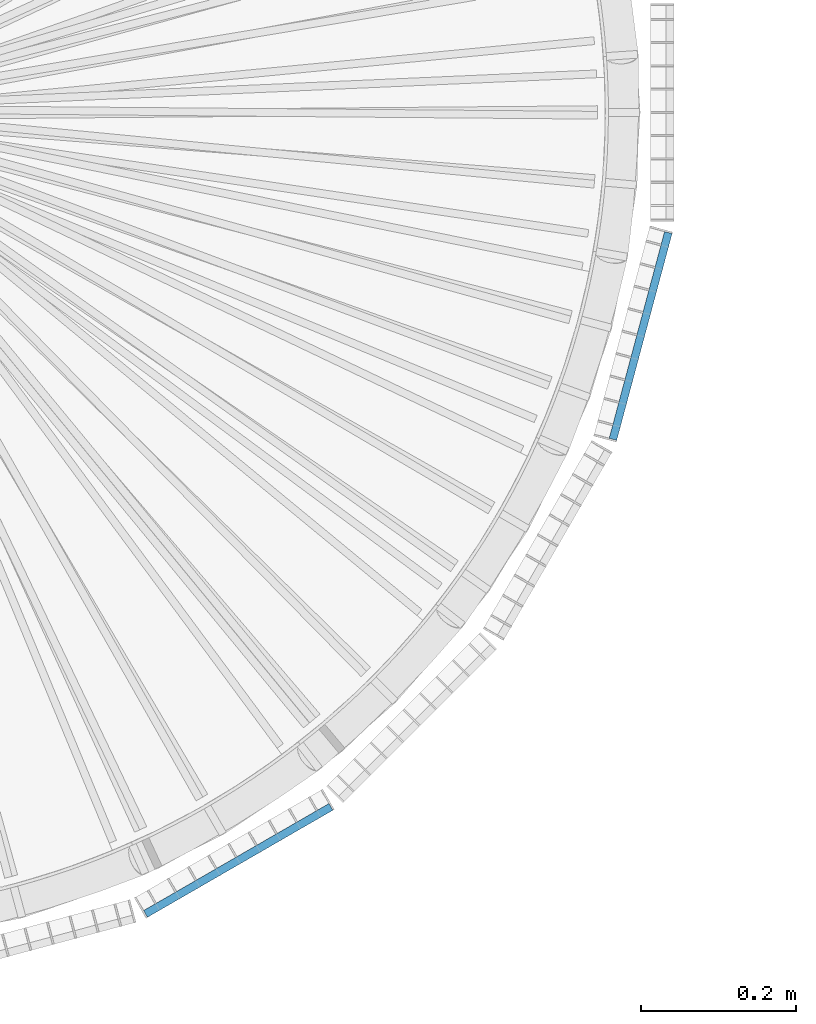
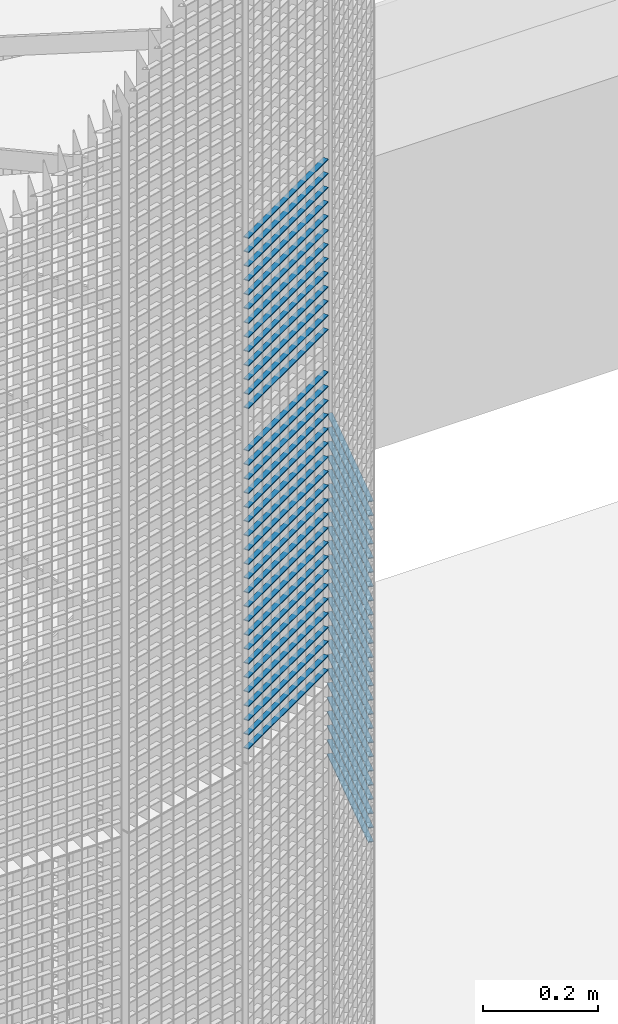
# One storey, part 226 of 1148: 60 beams, 2 elements without a shape of their own.
"""IFC2X3 building model written with IfcOpenShell, lengths in millimetres."""

from ifc_helpers import new_model, si_unit, frame, origin_with_axes, origin_2d_with_axis, place, context, subcontext, project, spatial, rectangle, extrude, material, type_object, element, aggregate, save


model = new_model("IFC2X3")

# Units and contexts
model_context = context("Model", 3, precision=1e-05, world=origin_with_axes())
body_context = subcontext(model_context, "Body", "Model", "MODEL_VIEW")
ifc_project = project(units=[si_unit("LENGTHUNIT", "METRE", prefix="MILLI"), si_unit("AREAUNIT", "SQUARE_METRE"), si_unit("VOLUMEUNIT", "CUBIC_METRE"), si_unit("MASSUNIT", "GRAM", prefix="KILO"), si_unit("TIMEUNIT", "SECOND"), si_unit("PLANEANGLEUNIT", "RADIAN"), si_unit("SOLIDANGLEUNIT", "STERADIAN"), si_unit("THERMODYNAMICTEMPERATUREUNIT", "DEGREE_CELSIUS"), si_unit("LUMINOUSINTENSITYUNIT", "LUMEN")], contexts=[model_context])

# Site, building, storey
site_placement = place(None, origin_with_axes())
site = spatial("IfcSite", under=ifc_project, at=site_placement, Name="Undefined", CompositionType="ELEMENT")
building_placement = place(site_placement, origin_with_axes())
building = spatial("IfcBuilding", under=site, at=building_placement, Name="Undefined", CompositionType="ELEMENT")
storey_placement = place(building_placement, origin_with_axes())
storey = spatial("IfcBuildingStorey", under=building, at=storey_placement, Name="Undefined", CompositionType="ELEMENT", Elevation=0.0)

# Assembly, beams
assembly_1_placement = place(storey_placement, origin_with_axes())
assembly_1 = element("IfcElementAssembly", 1, at=assembly_1_placement, inside=storey, Name="BORDURE", AssemblyPlace="NOTDEFINED", PredefinedType="NOTDEFINED")
ifc_material = material(Name="STEEL/S235JR")
beam_type = type_object("IfcBeamType", Name="PL2*10", PredefinedType="NOTDEFINED")
beam_1_placement = place(assembly_1_placement, frame((437.231955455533, -1033.29996828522, 15750.0), z_axis=(0.499999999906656, -0.866025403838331, 0.0), x_axis=(0.866025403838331, 0.499999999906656, 0.0)))
beam_1 = element("IfcBeam", 2, at=beam_1_placement, type_object=beam_type, material=ifc_material, Name="ENTRETOISE", context=body_context, shape_type="SweptSolid", body=[
    extrude(rectangle(XDim=2.0, YDim=10.0, at=origin_2d_with_axis()), frame((275.999999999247, 9.09494701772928e-13, 1.53210777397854e-14), z_axis=(-1.0, 0.0, 0.0), x_axis=(0.0, -1.0, 0.0)), (0.0, 0.0, 1.0), 276.0),
])
beam_2_placement = place(assembly_1_placement, frame((437.231955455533, -1033.29996828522, 15660.0), z_axis=(0.499999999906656, -0.866025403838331, 0.0), x_axis=(0.866025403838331, 0.499999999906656, 0.0)))
beam_2 = element("IfcBeam", 3, at=beam_2_placement, type_object=beam_type, material=ifc_material, Name="ENTRETOISE", context=body_context, shape_type="SweptSolid", body=[
    extrude(rectangle(XDim=2.0, YDim=10.0, at=origin_2d_with_axis()), frame((275.999999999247, 9.09494701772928e-13, 1.53210777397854e-14), z_axis=(-1.0, 0.0, 0.0), x_axis=(0.0, -1.0, 0.0)), (0.0, 0.0, 1.0), 276.0),
])
beam_3_placement = place(assembly_1_placement, frame((437.231955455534, -1033.29996828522, 15630.0), z_axis=(0.499999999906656, -0.866025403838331, 0.0), x_axis=(0.866025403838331, 0.499999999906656, 0.0)))
beam_3 = element("IfcBeam", 4, at=beam_3_placement, type_object=beam_type, material=ifc_material, Name="ENTRETOISE", context=body_context, shape_type="SweptSolid", body=[
    extrude(rectangle(XDim=2.0, YDim=10.0, at=origin_2d_with_axis()), frame((275.999999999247, 9.09494701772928e-13, 1.53210777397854e-14), z_axis=(-1.0, 0.0, 0.0), x_axis=(0.0, -1.0, 0.0)), (0.0, 0.0, 1.0), 276.0),
])
beam_4_placement = place(assembly_1_placement, frame((437.231955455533, -1033.29996828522, 15780.0), z_axis=(0.499999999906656, -0.866025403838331, 0.0), x_axis=(0.866025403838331, 0.499999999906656, 0.0)))
beam_4 = element("IfcBeam", 5, at=beam_4_placement, type_object=beam_type, material=ifc_material, Name="ENTRETOISE", context=body_context, shape_type="SweptSolid", body=[
    extrude(rectangle(XDim=2.0, YDim=10.0, at=origin_2d_with_axis()), frame((275.999999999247, 9.09494701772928e-13, 1.53210777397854e-14), z_axis=(-1.0, 0.0, 0.0), x_axis=(0.0, -1.0, 0.0)), (0.0, 0.0, 1.0), 276.0),
])
beam_5_placement = place(assembly_1_placement, frame((437.231955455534, -1033.29996828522, 15600.0), z_axis=(0.499999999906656, -0.866025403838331, 0.0), x_axis=(0.866025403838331, 0.499999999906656, 0.0)))
beam_5 = element("IfcBeam", 6, at=beam_5_placement, type_object=beam_type, material=ifc_material, Name="ENTRETOISE", context=body_context, shape_type="SweptSolid", body=[
    extrude(rectangle(XDim=2.0, YDim=10.0, at=origin_2d_with_axis()), frame((275.999999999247, 9.09494701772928e-13, 1.53210777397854e-14), z_axis=(-1.0, 0.0, 0.0), x_axis=(0.0, -1.0, 0.0)), (0.0, 0.0, 1.0), 276.0),
])
beam_6_placement = place(assembly_1_placement, frame((437.231955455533, -1033.29996828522, 15810.0), z_axis=(0.499999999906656, -0.866025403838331, 0.0), x_axis=(0.866025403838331, 0.499999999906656, 0.0)))
beam_6 = element("IfcBeam", 7, at=beam_6_placement, type_object=beam_type, material=ifc_material, Name="ENTRETOISE", context=body_context, shape_type="SweptSolid", body=[
    extrude(rectangle(XDim=2.0, YDim=10.0, at=origin_2d_with_axis()), frame((275.999999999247, 9.09494701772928e-13, 1.53210777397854e-14), z_axis=(-1.0, 0.0, 0.0), x_axis=(0.0, -1.0, 0.0)), (0.0, 0.0, 1.0), 276.0),
])
beam_7_placement = place(assembly_1_placement, frame((437.231955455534, -1033.29996828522, 15570.0), z_axis=(0.499999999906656, -0.866025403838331, 0.0), x_axis=(0.866025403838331, 0.499999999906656, 0.0)))
beam_7 = element("IfcBeam", 8, at=beam_7_placement, type_object=beam_type, material=ifc_material, Name="ENTRETOISE", context=body_context, shape_type="SweptSolid", body=[
    extrude(rectangle(XDim=2.0, YDim=10.0, at=origin_2d_with_axis()), frame((275.999999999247, 9.09494701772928e-13, 1.53210777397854e-14), z_axis=(-1.0, 0.0, 0.0), x_axis=(0.0, -1.0, 0.0)), (0.0, 0.0, 1.0), 276.0),
])
beam_8_placement = place(assembly_1_placement, frame((437.231955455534, -1033.29996828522, 15540.0), z_axis=(0.499999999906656, -0.866025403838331, 0.0), x_axis=(0.866025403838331, 0.499999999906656, 0.0)))
beam_8 = element("IfcBeam", 9, at=beam_8_placement, type_object=beam_type, material=ifc_material, Name="ENTRETOISE", context=body_context, shape_type="SweptSolid", body=[
    extrude(rectangle(XDim=2.0, YDim=10.0, at=origin_2d_with_axis()), frame((275.999999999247, 9.09494701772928e-13, 1.53210777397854e-14), z_axis=(-1.0, 0.0, 0.0), x_axis=(0.0, -1.0, 0.0)), (0.0, 0.0, 1.0), 276.0),
])
beam_9_placement = place(assembly_1_placement, frame((437.231955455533, -1033.29996828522, 15840.0), z_axis=(0.499999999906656, -0.866025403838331, 0.0), x_axis=(0.866025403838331, 0.499999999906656, 0.0)))
beam_9 = element("IfcBeam", 10, at=beam_9_placement, type_object=beam_type, material=ifc_material, Name="ENTRETOISE", context=body_context, shape_type="SweptSolid", body=[
    extrude(rectangle(XDim=2.0, YDim=10.0, at=origin_2d_with_axis()), frame((275.999999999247, 9.09494701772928e-13, 1.53210777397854e-14), z_axis=(-1.0, 0.0, 0.0), x_axis=(0.0, -1.0, 0.0)), (0.0, 0.0, 1.0), 276.0),
])
beam_10_placement = place(assembly_1_placement, frame((437.231955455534, -1033.29996828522, 15510.0), z_axis=(0.499999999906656, -0.866025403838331, 0.0), x_axis=(0.866025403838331, 0.499999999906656, 0.0)))
beam_10 = element("IfcBeam", 11, at=beam_10_placement, type_object=beam_type, material=ifc_material, Name="ENTRETOISE", context=body_context, shape_type="SweptSolid", body=[
    extrude(rectangle(XDim=2.0, YDim=10.0, at=origin_2d_with_axis()), frame((275.999999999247, 9.09494701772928e-13, 1.53210777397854e-14), z_axis=(-1.0, 0.0, 0.0), x_axis=(0.0, -1.0, 0.0)), (0.0, 0.0, 1.0), 276.0),
])
beam_11_placement = place(assembly_1_placement, frame((437.231955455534, -1033.29996828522, 15480.0), z_axis=(0.499999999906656, -0.866025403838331, 0.0), x_axis=(0.866025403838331, 0.499999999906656, 0.0)))
beam_11 = element("IfcBeam", 12, at=beam_11_placement, type_object=beam_type, material=ifc_material, Name="ENTRETOISE", context=body_context, shape_type="SweptSolid", body=[
    extrude(rectangle(XDim=2.0, YDim=10.0, at=origin_2d_with_axis()), frame((275.999999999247, 9.09494701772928e-13, 1.53210777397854e-14), z_axis=(-1.0, 0.0, 0.0), x_axis=(0.0, -1.0, 0.0)), (0.0, 0.0, 1.0), 276.0),
])
beam_12_placement = place(assembly_1_placement, frame((437.231955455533, -1033.29996828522, 15870.0), z_axis=(0.499999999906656, -0.866025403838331, 0.0), x_axis=(0.866025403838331, 0.499999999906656, 0.0)))
beam_12 = element("IfcBeam", 13, at=beam_12_placement, type_object=beam_type, material=ifc_material, Name="ENTRETOISE", context=body_context, shape_type="SweptSolid", body=[
    extrude(rectangle(XDim=2.0, YDim=10.0, at=origin_2d_with_axis()), frame((275.999999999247, 9.09494701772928e-13, 1.53210777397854e-14), z_axis=(-1.0, 0.0, 0.0), x_axis=(0.0, -1.0, 0.0)), (0.0, 0.0, 1.0), 276.0),
])
beam_13_placement = place(assembly_1_placement, frame((437.231955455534, -1033.29996828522, 15450.0), z_axis=(0.499999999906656, -0.866025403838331, 0.0), x_axis=(0.866025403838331, 0.499999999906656, 0.0)))
beam_13 = element("IfcBeam", 14, at=beam_13_placement, type_object=beam_type, material=ifc_material, Name="ENTRETOISE", context=body_context, shape_type="SweptSolid", body=[
    extrude(rectangle(XDim=2.0, YDim=10.0, at=origin_2d_with_axis()), frame((275.999999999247, 9.09494701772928e-13, 1.53210777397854e-14), z_axis=(-1.0, 0.0, 0.0), x_axis=(0.0, -1.0, 0.0)), (0.0, 0.0, 1.0), 276.0),
])
beam_14_placement = place(assembly_1_placement, frame((437.231955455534, -1033.29996828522, 15420.0), z_axis=(0.499999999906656, -0.866025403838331, 0.0), x_axis=(0.866025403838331, 0.499999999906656, 0.0)))
beam_14 = element("IfcBeam", 15, at=beam_14_placement, type_object=beam_type, material=ifc_material, Name="ENTRETOISE", context=body_context, shape_type="SweptSolid", body=[
    extrude(rectangle(XDim=2.0, YDim=10.0, at=origin_2d_with_axis()), frame((275.999999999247, 9.09494701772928e-13, 1.53210777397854e-14), z_axis=(-1.0, 0.0, 0.0), x_axis=(0.0, -1.0, 0.0)), (0.0, 0.0, 1.0), 276.0),
])
beam_15_placement = place(assembly_1_placement, frame((437.231955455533, -1033.29996828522, 15900.0), z_axis=(0.499999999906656, -0.866025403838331, 0.0), x_axis=(0.866025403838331, 0.499999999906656, 0.0)))
beam_15 = element("IfcBeam", 16, at=beam_15_placement, type_object=beam_type, material=ifc_material, Name="ENTRETOISE", context=body_context, shape_type="SweptSolid", body=[
    extrude(rectangle(XDim=2.0, YDim=10.0, at=origin_2d_with_axis()), frame((275.999999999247, 9.09494701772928e-13, 1.53210777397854e-14), z_axis=(-1.0, 0.0, 0.0), x_axis=(0.0, -1.0, 0.0)), (0.0, 0.0, 1.0), 276.0),
])
beam_16_placement = place(assembly_1_placement, frame((437.231955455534, -1033.29996828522, 15390.0), z_axis=(0.499999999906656, -0.866025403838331, 0.0), x_axis=(0.866025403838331, 0.499999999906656, 0.0)))
beam_16 = element("IfcBeam", 17, at=beam_16_placement, type_object=beam_type, material=ifc_material, Name="ENTRETOISE", context=body_context, shape_type="SweptSolid", body=[
    extrude(rectangle(XDim=2.0, YDim=10.0, at=origin_2d_with_axis()), frame((275.999999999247, 9.09494701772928e-13, 1.53210777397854e-14), z_axis=(-1.0, 0.0, 0.0), x_axis=(0.0, -1.0, 0.0)), (0.0, 0.0, 1.0), 276.0),
])
beam_17_placement = place(assembly_1_placement, frame((437.231955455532, -1033.29996828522, 15930.0), z_axis=(0.499999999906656, -0.866025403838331, 0.0), x_axis=(0.866025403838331, 0.499999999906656, 0.0)))
beam_17 = element("IfcBeam", 18, at=beam_17_placement, type_object=beam_type, material=ifc_material, Name="ENTRETOISE", context=body_context, shape_type="SweptSolid", body=[
    extrude(rectangle(XDim=2.0, YDim=10.0, at=origin_2d_with_axis()), frame((275.999999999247, 9.09494701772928e-13, 1.53210777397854e-14), z_axis=(-1.0, 0.0, 0.0), x_axis=(0.0, -1.0, 0.0)), (0.0, 0.0, 1.0), 276.0),
])
beam_18_placement = place(assembly_1_placement, frame((437.231955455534, -1033.29996828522, 15360.0), z_axis=(0.499999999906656, -0.866025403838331, 0.0), x_axis=(0.866025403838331, 0.499999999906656, 0.0)))
beam_18 = element("IfcBeam", 19, at=beam_18_placement, type_object=beam_type, material=ifc_material, Name="ENTRETOISE", context=body_context, shape_type="SweptSolid", body=[
    extrude(rectangle(XDim=2.0, YDim=10.0, at=origin_2d_with_axis()), frame((275.999999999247, 9.09494701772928e-13, 1.53210777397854e-14), z_axis=(-1.0, 0.0, 0.0), x_axis=(0.0, -1.0, 0.0)), (0.0, 0.0, 1.0), 276.0),
])
beam_19_placement = place(assembly_1_placement, frame((437.231955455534, -1033.29996828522, 15330.0), z_axis=(0.499999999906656, -0.866025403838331, 0.0), x_axis=(0.866025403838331, 0.499999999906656, 0.0)))
beam_19 = element("IfcBeam", 20, at=beam_19_placement, type_object=beam_type, material=ifc_material, Name="ENTRETOISE", context=body_context, shape_type="SweptSolid", body=[
    extrude(rectangle(XDim=2.0, YDim=10.0, at=origin_2d_with_axis()), frame((275.999999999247, 9.09494701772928e-13, 1.53210777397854e-14), z_axis=(-1.0, 0.0, 0.0), x_axis=(0.0, -1.0, 0.0)), (0.0, 0.0, 1.0), 276.0),
])
beam_20_placement = place(assembly_1_placement, frame((437.231955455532, -1033.29996828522, 15960.0), z_axis=(0.499999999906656, -0.866025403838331, 0.0), x_axis=(0.866025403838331, 0.499999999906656, 0.0)))
beam_20 = element("IfcBeam", 21, at=beam_20_placement, type_object=beam_type, material=ifc_material, Name="ENTRETOISE", context=body_context, shape_type="SweptSolid", body=[
    extrude(rectangle(XDim=2.0, YDim=10.0, at=origin_2d_with_axis()), frame((275.999999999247, 9.09494701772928e-13, 1.53210777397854e-14), z_axis=(-1.0, 0.0, 0.0), x_axis=(0.0, -1.0, 0.0)), (0.0, 0.0, 1.0), 276.0),
])
beam_21_placement = place(assembly_1_placement, frame((437.231955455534, -1033.29996828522, 15300.0), z_axis=(0.499999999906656, -0.866025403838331, 0.0), x_axis=(0.866025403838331, 0.499999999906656, 0.0)))
beam_21 = element("IfcBeam", 22, at=beam_21_placement, type_object=beam_type, material=ifc_material, Name="ENTRETOISE", context=body_context, shape_type="SweptSolid", body=[
    extrude(rectangle(XDim=2.0, YDim=10.0, at=origin_2d_with_axis()), frame((275.999999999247, 9.09494701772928e-13, 1.53210777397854e-14), z_axis=(-1.0, 0.0, 0.0), x_axis=(0.0, -1.0, 0.0)), (0.0, 0.0, 1.0), 276.0),
])
beam_22_placement = place(assembly_1_placement, frame((437.231955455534, -1033.29996828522, 15270.0), z_axis=(0.499999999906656, -0.866025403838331, 0.0), x_axis=(0.866025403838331, 0.499999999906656, 0.0)))
beam_22 = element("IfcBeam", 23, at=beam_22_placement, type_object=beam_type, material=ifc_material, Name="ENTRETOISE", context=body_context, shape_type="SweptSolid", body=[
    extrude(rectangle(XDim=2.0, YDim=10.0, at=origin_2d_with_axis()), frame((275.999999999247, 9.09494701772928e-13, 1.53210777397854e-14), z_axis=(-1.0, 0.0, 0.0), x_axis=(0.0, -1.0, 0.0)), (0.0, 0.0, 1.0), 276.0),
])
beam_23_placement = place(assembly_1_placement, frame((437.231955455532, -1033.29996828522, 15990.0), z_axis=(0.499999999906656, -0.866025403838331, 0.0), x_axis=(0.866025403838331, 0.499999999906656, 0.0)))
beam_23 = element("IfcBeam", 24, at=beam_23_placement, type_object=beam_type, material=ifc_material, Name="ENTRETOISE", context=body_context, shape_type="SweptSolid", body=[
    extrude(rectangle(XDim=2.0, YDim=10.0, at=origin_2d_with_axis()), frame((275.999999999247, 9.09494701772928e-13, 1.53210777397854e-14), z_axis=(-1.0, 0.0, 0.0), x_axis=(0.0, -1.0, 0.0)), (0.0, 0.0, 1.0), 276.0),
])
beam_24_placement = place(assembly_1_placement, frame((437.231955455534, -1033.29996828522, 15240.0), z_axis=(0.499999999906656, -0.866025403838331, 0.0), x_axis=(0.866025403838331, 0.499999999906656, 0.0)))
beam_24 = element("IfcBeam", 25, at=beam_24_placement, type_object=beam_type, material=ifc_material, Name="ENTRETOISE", context=body_context, shape_type="SweptSolid", body=[
    extrude(rectangle(XDim=2.0, YDim=10.0, at=origin_2d_with_axis()), frame((275.999999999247, 9.09494701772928e-13, 1.53210777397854e-14), z_axis=(-1.0, 0.0, 0.0), x_axis=(0.0, -1.0, 0.0)), (0.0, 0.0, 1.0), 276.0),
])
beam_25_placement = place(assembly_1_placement, frame((437.231955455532, -1033.29996828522, 16020.0), z_axis=(0.499999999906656, -0.866025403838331, 0.0), x_axis=(0.866025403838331, 0.499999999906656, 0.0)))
beam_25 = element("IfcBeam", 26, at=beam_25_placement, type_object=beam_type, material=ifc_material, Name="ENTRETOISE", context=body_context, shape_type="SweptSolid", body=[
    extrude(rectangle(XDim=2.0, YDim=10.0, at=origin_2d_with_axis()), frame((275.999999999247, 9.09494701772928e-13, 1.53210777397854e-14), z_axis=(-1.0, 0.0, 0.0), x_axis=(0.0, -1.0, 0.0)), (0.0, 0.0, 1.0), 276.0),
])
beam_26_placement = place(assembly_1_placement, frame((437.231955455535, -1033.29996828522, 15210.0), z_axis=(0.499999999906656, -0.866025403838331, 0.0), x_axis=(0.866025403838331, 0.499999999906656, 0.0)))
beam_26 = element("IfcBeam", 27, at=beam_26_placement, type_object=beam_type, material=ifc_material, Name="ENTRETOISE", context=body_context, shape_type="SweptSolid", body=[
    extrude(rectangle(XDim=2.0, YDim=10.0, at=origin_2d_with_axis()), frame((275.999999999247, 9.09494701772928e-13, 1.53210777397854e-14), z_axis=(-1.0, 0.0, 0.0), x_axis=(0.0, -1.0, 0.0)), (0.0, 0.0, 1.0), 276.0),
])
beam_27_placement = place(assembly_1_placement, frame((437.231955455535, -1033.29996828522, 15180.0), z_axis=(0.499999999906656, -0.866025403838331, 0.0), x_axis=(0.866025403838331, 0.499999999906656, 0.0)))
beam_27 = element("IfcBeam", 28, at=beam_27_placement, type_object=beam_type, material=ifc_material, Name="ENTRETOISE", context=body_context, shape_type="SweptSolid", body=[
    extrude(rectangle(XDim=2.0, YDim=10.0, at=origin_2d_with_axis()), frame((275.999999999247, 9.09494701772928e-13, 1.53210777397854e-14), z_axis=(-1.0, 0.0, 0.0), x_axis=(0.0, -1.0, 0.0)), (0.0, 0.0, 1.0), 276.0),
])
beam_28_placement = place(assembly_1_placement, frame((437.231955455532, -1033.29996828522, 16050.0), z_axis=(0.499999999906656, -0.866025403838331, 0.0), x_axis=(0.866025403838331, 0.499999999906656, 0.0)))
beam_28 = element("IfcBeam", 29, at=beam_28_placement, type_object=beam_type, material=ifc_material, Name="ENTRETOISE", context=body_context, shape_type="SweptSolid", body=[
    extrude(rectangle(XDim=2.0, YDim=10.0, at=origin_2d_with_axis()), frame((275.999999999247, 9.09494701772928e-13, 1.53210777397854e-14), z_axis=(-1.0, 0.0, 0.0), x_axis=(0.0, -1.0, 0.0)), (0.0, 0.0, 1.0), 276.0),
])
beam_29_placement = place(assembly_1_placement, frame((437.231955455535, -1033.29996828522, 15150.0), z_axis=(0.499999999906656, -0.866025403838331, 0.0), x_axis=(0.866025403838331, 0.499999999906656, 0.0)))
beam_29 = element("IfcBeam", 30, at=beam_29_placement, type_object=beam_type, material=ifc_material, Name="ENTRETOISE", context=body_context, shape_type="SweptSolid", body=[
    extrude(rectangle(XDim=2.0, YDim=10.0, at=origin_2d_with_axis()), frame((275.999999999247, 9.09494701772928e-13, 1.53210777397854e-14), z_axis=(-1.0, 0.0, 0.0), x_axis=(0.0, -1.0, 0.0)), (0.0, 0.0, 1.0), 276.0),
])
beam_30_placement = place(assembly_1_placement, frame((437.231955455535, -1033.29996828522, 15120.0), z_axis=(0.499999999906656, -0.866025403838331, 0.0), x_axis=(0.866025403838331, 0.499999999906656, 0.0)))
beam_30 = element("IfcBeam", 31, at=beam_30_placement, type_object=beam_type, material=ifc_material, Name="ENTRETOISE", context=body_context, shape_type="SweptSolid", body=[
    extrude(rectangle(XDim=2.0, YDim=10.0, at=origin_2d_with_axis()), frame((275.999999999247, 9.09494701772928e-13, 1.53210777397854e-14), z_axis=(-1.0, 0.0, 0.0), x_axis=(0.0, -1.0, 0.0)), (0.0, 0.0, 1.0), 276.0),
])
beam_31_placement = place(assembly_1_placement, frame((437.231955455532, -1033.29996828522, 16080.0), z_axis=(0.499999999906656, -0.866025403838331, 0.0), x_axis=(0.866025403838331, 0.499999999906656, 0.0)))
beam_31 = element("IfcBeam", 32, at=beam_31_placement, type_object=beam_type, material=ifc_material, Name="ENTRETOISE", context=body_context, shape_type="SweptSolid", body=[
    extrude(rectangle(XDim=2.0, YDim=10.0, at=origin_2d_with_axis()), frame((275.999999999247, 9.09494701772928e-13, 1.53210777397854e-14), z_axis=(-1.0, 0.0, 0.0), x_axis=(0.0, -1.0, 0.0)), (0.0, 0.0, 1.0), 276.0),
])
beam_32_placement = place(assembly_1_placement, frame((437.231955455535, -1033.29996828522, 15090.0), z_axis=(0.499999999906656, -0.866025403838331, 0.0), x_axis=(0.866025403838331, 0.499999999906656, 0.0)))
beam_32 = element("IfcBeam", 33, at=beam_32_placement, type_object=beam_type, material=ifc_material, Name="ENTRETOISE", context=body_context, shape_type="SweptSolid", body=[
    extrude(rectangle(XDim=2.0, YDim=10.0, at=origin_2d_with_axis()), frame((275.999999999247, 9.09494701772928e-13, 1.53210777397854e-14), z_axis=(-1.0, 0.0, 0.0), x_axis=(0.0, -1.0, 0.0)), (0.0, 0.0, 1.0), 276.0),
])
beam_33_placement = place(assembly_1_placement, frame((437.231955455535, -1033.29996828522, 15060.0), z_axis=(0.499999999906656, -0.866025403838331, 0.0), x_axis=(0.866025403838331, 0.499999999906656, 0.0)))
beam_33 = element("IfcBeam", 34, at=beam_33_placement, type_object=beam_type, material=ifc_material, Name="ENTRETOISE", context=body_context, shape_type="SweptSolid", body=[
    extrude(rectangle(XDim=2.0, YDim=10.0, at=origin_2d_with_axis()), frame((275.999999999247, 9.09494701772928e-13, 1.53210777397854e-14), z_axis=(-1.0, 0.0, 0.0), x_axis=(0.0, -1.0, 0.0)), (0.0, 0.0, 1.0), 276.0),
])
beam_34_placement = place(assembly_1_placement, frame((437.231955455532, -1033.29996828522, 16110.0), z_axis=(0.499999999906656, -0.866025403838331, 0.0), x_axis=(0.866025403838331, 0.499999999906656, 0.0)))
beam_34 = element("IfcBeam", 35, at=beam_34_placement, type_object=beam_type, material=ifc_material, Name="ENTRETOISE", context=body_context, shape_type="SweptSolid", body=[
    extrude(rectangle(XDim=2.0, YDim=10.0, at=origin_2d_with_axis()), frame((275.999999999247, 9.09494701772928e-13, 1.53210777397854e-14), z_axis=(-1.0, 0.0, 0.0), x_axis=(0.0, -1.0, 0.0)), (0.0, 0.0, 1.0), 276.0),
])
beam_35_placement = place(assembly_1_placement, frame((437.231955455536, -1033.29996828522, 15030.0), z_axis=(0.499999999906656, -0.866025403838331, 0.0), x_axis=(0.866025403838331, 0.499999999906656, 0.0)))
beam_35 = element("IfcBeam", 36, at=beam_35_placement, type_object=beam_type, material=ifc_material, Name="ENTRETOISE", context=body_context, shape_type="SweptSolid", body=[
    extrude(rectangle(XDim=2.0, YDim=10.0, at=origin_2d_with_axis()), frame((275.999999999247, 9.09494701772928e-13, 1.53210777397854e-14), z_axis=(-1.0, 0.0, 0.0), x_axis=(0.0, -1.0, 0.0)), (0.0, 0.0, 1.0), 276.0),
])
aggregate(assembly_1, [beam_1, beam_2, beam_3, beam_4, beam_5, beam_6, beam_7, beam_8, beam_9, beam_10, beam_11, beam_12, beam_13, beam_14, beam_15, beam_16, beam_17, beam_18, beam_19, beam_20, beam_21, beam_22, beam_23, beam_24, beam_25, beam_26, beam_27, beam_28, beam_29, beam_30, beam_31, beam_32, beam_33, beam_34, beam_35])

assembly_2_placement = place(storey_placement, origin_with_axes())
assembly_2 = element("IfcElementAssembly", 37, at=assembly_2_placement, inside=storey, Name="BORDURE", AssemblyPlace="NOTDEFINED", PredefinedType="NOTDEFINED")
beam_36_placement = place(assembly_2_placement, frame((1039.82309522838, -421.483733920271, 14970.0), z_axis=(0.965925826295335, -0.258819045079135, 0.0), x_axis=(0.258819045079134, 0.965925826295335, 0.0)))
beam_36 = element("IfcBeam", 38, at=beam_36_placement, type_object=beam_type, material=ifc_material, Name="ENTRETOISE", context=body_context, shape_type="SweptSolid", body=[
    extrude(rectangle(XDim=2.0, YDim=10.0, at=origin_2d_with_axis()), frame((275.999999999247, 9.09494701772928e-13, 1.53210777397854e-14), z_axis=(-1.0, 0.0, 0.0), x_axis=(0.0, -1.0, 0.0)), (0.0, 0.0, 1.0), 276.0),
])
beam_37_placement = place(assembly_2_placement, frame((1039.82309522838, -421.483733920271, 14940.0), z_axis=(0.965925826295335, -0.258819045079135, 0.0), x_axis=(0.258819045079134, 0.965925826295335, 0.0)))
beam_37 = element("IfcBeam", 39, at=beam_37_placement, type_object=beam_type, material=ifc_material, Name="ENTRETOISE", context=body_context, shape_type="SweptSolid", body=[
    extrude(rectangle(XDim=2.0, YDim=10.0, at=origin_2d_with_axis()), frame((275.999999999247, 9.09494701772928e-13, 1.53210777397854e-14), z_axis=(-1.0, 0.0, 0.0), x_axis=(0.0, -1.0, 0.0)), (0.0, 0.0, 1.0), 276.0),
])
beam_38_placement = place(assembly_2_placement, frame((1039.82309522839, -421.483733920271, 14910.0), z_axis=(0.965925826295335, -0.258819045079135, 0.0), x_axis=(0.258819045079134, 0.965925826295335, 0.0)))
beam_38 = element("IfcBeam", 40, at=beam_38_placement, type_object=beam_type, material=ifc_material, Name="ENTRETOISE", context=body_context, shape_type="SweptSolid", body=[
    extrude(rectangle(XDim=2.0, YDim=10.0, at=origin_2d_with_axis()), frame((275.999999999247, 9.09494701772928e-13, 1.53210777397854e-14), z_axis=(-1.0, 0.0, 0.0), x_axis=(0.0, -1.0, 0.0)), (0.0, 0.0, 1.0), 276.0),
])
beam_39_placement = place(assembly_2_placement, frame((1039.82309522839, -421.483733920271, 14880.0), z_axis=(0.965925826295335, -0.258819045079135, 0.0), x_axis=(0.258819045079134, 0.965925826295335, 0.0)))
beam_39 = element("IfcBeam", 41, at=beam_39_placement, type_object=beam_type, material=ifc_material, Name="ENTRETOISE", context=body_context, shape_type="SweptSolid", body=[
    extrude(rectangle(XDim=2.0, YDim=10.0, at=origin_2d_with_axis()), frame((275.999999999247, 9.09494701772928e-13, 1.53210777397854e-14), z_axis=(-1.0, 0.0, 0.0), x_axis=(0.0, -1.0, 0.0)), (0.0, 0.0, 1.0), 276.0),
])
beam_40_placement = place(assembly_2_placement, frame((1039.82309522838, -421.483733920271, 14850.0), z_axis=(0.965925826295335, -0.258819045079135, 0.0), x_axis=(0.258819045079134, 0.965925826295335, 0.0)))
beam_40 = element("IfcBeam", 42, at=beam_40_placement, type_object=beam_type, material=ifc_material, Name="ENTRETOISE", context=body_context, shape_type="SweptSolid", body=[
    extrude(rectangle(XDim=2.0, YDim=10.0, at=origin_2d_with_axis()), frame((275.999999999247, 9.09494701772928e-13, 1.53210777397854e-14), z_axis=(-1.0, 0.0, 0.0), x_axis=(0.0, -1.0, 0.0)), (0.0, 0.0, 1.0), 276.0),
])
beam_41_placement = place(assembly_2_placement, frame((1039.82309522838, -421.483733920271, 14820.0), z_axis=(0.965925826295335, -0.258819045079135, 0.0), x_axis=(0.258819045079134, 0.965925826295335, 0.0)))
beam_41 = element("IfcBeam", 43, at=beam_41_placement, type_object=beam_type, material=ifc_material, Name="ENTRETOISE", context=body_context, shape_type="SweptSolid", body=[
    extrude(rectangle(XDim=2.0, YDim=10.0, at=origin_2d_with_axis()), frame((275.999999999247, 9.09494701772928e-13, 1.53210777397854e-14), z_axis=(-1.0, 0.0, 0.0), x_axis=(0.0, -1.0, 0.0)), (0.0, 0.0, 1.0), 276.0),
])
beam_42_placement = place(assembly_2_placement, frame((1039.82309522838, -421.483733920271, 14790.0), z_axis=(0.965925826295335, -0.258819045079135, 0.0), x_axis=(0.258819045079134, 0.965925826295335, 0.0)))
beam_42 = element("IfcBeam", 44, at=beam_42_placement, type_object=beam_type, material=ifc_material, Name="ENTRETOISE", context=body_context, shape_type="SweptSolid", body=[
    extrude(rectangle(XDim=2.0, YDim=10.0, at=origin_2d_with_axis()), frame((275.999999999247, 9.09494701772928e-13, 1.53210777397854e-14), z_axis=(-1.0, 0.0, 0.0), x_axis=(0.0, -1.0, 0.0)), (0.0, 0.0, 1.0), 276.0),
])
beam_43_placement = place(assembly_2_placement, frame((1039.82309522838, -421.483733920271, 14760.0), z_axis=(0.965925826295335, -0.258819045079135, 0.0), x_axis=(0.258819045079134, 0.965925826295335, 0.0)))
beam_43 = element("IfcBeam", 45, at=beam_43_placement, type_object=beam_type, material=ifc_material, Name="ENTRETOISE", context=body_context, shape_type="SweptSolid", body=[
    extrude(rectangle(XDim=2.0, YDim=10.0, at=origin_2d_with_axis()), frame((275.999999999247, 9.09494701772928e-13, 1.53210777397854e-14), z_axis=(-1.0, 0.0, 0.0), x_axis=(0.0, -1.0, 0.0)), (0.0, 0.0, 1.0), 276.0),
])
beam_44_placement = place(assembly_2_placement, frame((1039.82309522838, -421.48373392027, 14730.0), z_axis=(0.965925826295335, -0.258819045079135, 0.0), x_axis=(0.258819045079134, 0.965925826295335, 0.0)))
beam_44 = element("IfcBeam", 46, at=beam_44_placement, type_object=beam_type, material=ifc_material, Name="ENTRETOISE", context=body_context, shape_type="SweptSolid", body=[
    extrude(rectangle(XDim=2.0, YDim=10.0, at=origin_2d_with_axis()), frame((275.999999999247, 9.09494701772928e-13, 1.53210777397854e-14), z_axis=(-1.0, 0.0, 0.0), x_axis=(0.0, -1.0, 0.0)), (0.0, 0.0, 1.0), 276.0),
])
beam_45_placement = place(assembly_2_placement, frame((1039.82309522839, -421.48373392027, 14700.0), z_axis=(0.965925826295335, -0.258819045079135, 0.0), x_axis=(0.258819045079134, 0.965925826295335, 0.0)))
beam_45 = element("IfcBeam", 47, at=beam_45_placement, type_object=beam_type, material=ifc_material, Name="ENTRETOISE", context=body_context, shape_type="SweptSolid", body=[
    extrude(rectangle(XDim=2.0, YDim=10.0, at=origin_2d_with_axis()), frame((275.999999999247, 9.09494701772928e-13, 1.53210777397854e-14), z_axis=(-1.0, 0.0, 0.0), x_axis=(0.0, -1.0, 0.0)), (0.0, 0.0, 1.0), 276.0),
])
beam_46_placement = place(assembly_2_placement, frame((1039.82309522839, -421.48373392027, 14670.0), z_axis=(0.965925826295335, -0.258819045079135, 0.0), x_axis=(0.258819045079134, 0.965925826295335, 0.0)))
beam_46 = element("IfcBeam", 48, at=beam_46_placement, type_object=beam_type, material=ifc_material, Name="ENTRETOISE", context=body_context, shape_type="SweptSolid", body=[
    extrude(rectangle(XDim=2.0, YDim=10.0, at=origin_2d_with_axis()), frame((275.999999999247, 9.09494701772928e-13, 1.53210777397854e-14), z_axis=(-1.0, 0.0, 0.0), x_axis=(0.0, -1.0, 0.0)), (0.0, 0.0, 1.0), 276.0),
])
beam_47_placement = place(assembly_2_placement, frame((1039.82309522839, -421.48373392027, 14640.0), z_axis=(0.965925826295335, -0.258819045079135, 0.0), x_axis=(0.258819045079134, 0.965925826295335, 0.0)))
beam_47 = element("IfcBeam", 49, at=beam_47_placement, type_object=beam_type, material=ifc_material, Name="ENTRETOISE", context=body_context, shape_type="SweptSolid", body=[
    extrude(rectangle(XDim=2.0, YDim=10.0, at=origin_2d_with_axis()), frame((275.999999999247, 9.09494701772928e-13, 1.53210777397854e-14), z_axis=(-1.0, 0.0, 0.0), x_axis=(0.0, -1.0, 0.0)), (0.0, 0.0, 1.0), 276.0),
])
beam_48_placement = place(assembly_2_placement, frame((1039.82309522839, -421.48373392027, 14610.0), z_axis=(0.965925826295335, -0.258819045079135, 0.0), x_axis=(0.258819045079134, 0.965925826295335, 0.0)))
beam_48 = element("IfcBeam", 50, at=beam_48_placement, type_object=beam_type, material=ifc_material, Name="ENTRETOISE", context=body_context, shape_type="SweptSolid", body=[
    extrude(rectangle(XDim=2.0, YDim=10.0, at=origin_2d_with_axis()), frame((275.999999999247, 9.09494701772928e-13, 1.53210777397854e-14), z_axis=(-1.0, 0.0, 0.0), x_axis=(0.0, -1.0, 0.0)), (0.0, 0.0, 1.0), 276.0),
])
beam_49_placement = place(assembly_2_placement, frame((1039.82309522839, -421.48373392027, 14580.0), z_axis=(0.965925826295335, -0.258819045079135, 0.0), x_axis=(0.258819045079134, 0.965925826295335, 0.0)))
beam_49 = element("IfcBeam", 51, at=beam_49_placement, type_object=beam_type, material=ifc_material, Name="ENTRETOISE", context=body_context, shape_type="SweptSolid", body=[
    extrude(rectangle(XDim=2.0, YDim=10.0, at=origin_2d_with_axis()), frame((275.999999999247, 9.09494701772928e-13, 1.53210777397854e-14), z_axis=(-1.0, 0.0, 0.0), x_axis=(0.0, -1.0, 0.0)), (0.0, 0.0, 1.0), 276.0),
])
beam_50_placement = place(assembly_2_placement, frame((1039.82309522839, -421.48373392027, 14550.0), z_axis=(0.965925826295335, -0.258819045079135, 0.0), x_axis=(0.258819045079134, 0.965925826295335, 0.0)))
beam_50 = element("IfcBeam", 52, at=beam_50_placement, type_object=beam_type, material=ifc_material, Name="ENTRETOISE", context=body_context, shape_type="SweptSolid", body=[
    extrude(rectangle(XDim=2.0, YDim=10.0, at=origin_2d_with_axis()), frame((275.999999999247, 9.09494701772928e-13, 1.53210777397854e-14), z_axis=(-1.0, 0.0, 0.0), x_axis=(0.0, -1.0, 0.0)), (0.0, 0.0, 1.0), 276.0),
])
beam_51_placement = place(assembly_2_placement, frame((1039.82309522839, -421.48373392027, 14520.0), z_axis=(0.965925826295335, -0.258819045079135, 0.0), x_axis=(0.258819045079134, 0.965925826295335, 0.0)))
beam_51 = element("IfcBeam", 53, at=beam_51_placement, type_object=beam_type, material=ifc_material, Name="ENTRETOISE", context=body_context, shape_type="SweptSolid", body=[
    extrude(rectangle(XDim=2.0, YDim=10.0, at=origin_2d_with_axis()), frame((275.999999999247, 9.09494701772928e-13, 1.53210777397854e-14), z_axis=(-1.0, 0.0, 0.0), x_axis=(0.0, -1.0, 0.0)), (0.0, 0.0, 1.0), 276.0),
])
beam_52_placement = place(assembly_2_placement, frame((1039.82309522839, -421.48373392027, 14490.0), z_axis=(0.965925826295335, -0.258819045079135, 0.0), x_axis=(0.258819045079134, 0.965925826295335, 0.0)))
beam_52 = element("IfcBeam", 54, at=beam_52_placement, type_object=beam_type, material=ifc_material, Name="ENTRETOISE", context=body_context, shape_type="SweptSolid", body=[
    extrude(rectangle(XDim=2.0, YDim=10.0, at=origin_2d_with_axis()), frame((275.999999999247, 9.09494701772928e-13, 1.53210777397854e-14), z_axis=(-1.0, 0.0, 0.0), x_axis=(0.0, -1.0, 0.0)), (0.0, 0.0, 1.0), 276.0),
])
beam_53_placement = place(assembly_2_placement, frame((1039.82309522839, -421.483733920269, 14460.0), z_axis=(0.965925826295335, -0.258819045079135, 0.0), x_axis=(0.258819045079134, 0.965925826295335, 0.0)))
beam_53 = element("IfcBeam", 55, at=beam_53_placement, type_object=beam_type, material=ifc_material, Name="ENTRETOISE", context=body_context, shape_type="SweptSolid", body=[
    extrude(rectangle(XDim=2.0, YDim=10.0, at=origin_2d_with_axis()), frame((275.999999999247, 9.09494701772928e-13, 1.53210777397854e-14), z_axis=(-1.0, 0.0, 0.0), x_axis=(0.0, -1.0, 0.0)), (0.0, 0.0, 1.0), 276.0),
])
beam_54_placement = place(assembly_2_placement, frame((1039.82309522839, -421.483733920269, 14430.0), z_axis=(0.965925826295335, -0.258819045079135, 0.0), x_axis=(0.258819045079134, 0.965925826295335, 0.0)))
beam_54 = element("IfcBeam", 56, at=beam_54_placement, type_object=beam_type, material=ifc_material, Name="ENTRETOISE", context=body_context, shape_type="SweptSolid", body=[
    extrude(rectangle(XDim=2.0, YDim=10.0, at=origin_2d_with_axis()), frame((275.999999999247, 9.09494701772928e-13, 1.53210777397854e-14), z_axis=(-1.0, 0.0, 0.0), x_axis=(0.0, -1.0, 0.0)), (0.0, 0.0, 1.0), 276.0),
])
beam_55_placement = place(assembly_2_placement, frame((1039.82309522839, -421.483733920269, 14400.0), z_axis=(0.965925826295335, -0.258819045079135, 0.0), x_axis=(0.258819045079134, 0.965925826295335, 0.0)))
beam_55 = element("IfcBeam", 57, at=beam_55_placement, type_object=beam_type, material=ifc_material, Name="ENTRETOISE", context=body_context, shape_type="SweptSolid", body=[
    extrude(rectangle(XDim=2.0, YDim=10.0, at=origin_2d_with_axis()), frame((275.999999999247, 9.09494701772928e-13, 1.53210777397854e-14), z_axis=(-1.0, 0.0, 0.0), x_axis=(0.0, -1.0, 0.0)), (0.0, 0.0, 1.0), 276.0),
])
beam_56_placement = place(assembly_2_placement, frame((1039.82309522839, -421.483733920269, 14370.0), z_axis=(0.965925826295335, -0.258819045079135, 0.0), x_axis=(0.258819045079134, 0.965925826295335, 0.0)))
beam_56 = element("IfcBeam", 58, at=beam_56_placement, type_object=beam_type, material=ifc_material, Name="ENTRETOISE", context=body_context, shape_type="SweptSolid", body=[
    extrude(rectangle(XDim=2.0, YDim=10.0, at=origin_2d_with_axis()), frame((275.999999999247, 9.09494701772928e-13, 1.53210777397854e-14), z_axis=(-1.0, 0.0, 0.0), x_axis=(0.0, -1.0, 0.0)), (0.0, 0.0, 1.0), 276.0),
])
beam_57_placement = place(assembly_2_placement, frame((1039.82309522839, -421.483733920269, 14340.0), z_axis=(0.965925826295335, -0.258819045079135, 0.0), x_axis=(0.258819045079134, 0.965925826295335, 0.0)))
beam_57 = element("IfcBeam", 59, at=beam_57_placement, type_object=beam_type, material=ifc_material, Name="ENTRETOISE", context=body_context, shape_type="SweptSolid", body=[
    extrude(rectangle(XDim=2.0, YDim=10.0, at=origin_2d_with_axis()), frame((275.999999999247, 9.09494701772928e-13, 1.53210777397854e-14), z_axis=(-1.0, 0.0, 0.0), x_axis=(0.0, -1.0, 0.0)), (0.0, 0.0, 1.0), 276.0),
])
beam_58_placement = place(assembly_2_placement, frame((1039.82309522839, -421.483733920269, 14310.0), z_axis=(0.965925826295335, -0.258819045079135, 0.0), x_axis=(0.258819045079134, 0.965925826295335, 0.0)))
beam_58 = element("IfcBeam", 60, at=beam_58_placement, type_object=beam_type, material=ifc_material, Name="ENTRETOISE", context=body_context, shape_type="SweptSolid", body=[
    extrude(rectangle(XDim=2.0, YDim=10.0, at=origin_2d_with_axis()), frame((275.999999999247, 9.09494701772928e-13, 1.53210777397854e-14), z_axis=(-1.0, 0.0, 0.0), x_axis=(0.0, -1.0, 0.0)), (0.0, 0.0, 1.0), 276.0),
])
beam_59_placement = place(assembly_2_placement, frame((1039.82309522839, -421.483733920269, 14280.0), z_axis=(0.965925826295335, -0.258819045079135, 0.0), x_axis=(0.258819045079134, 0.965925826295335, 0.0)))
beam_59 = element("IfcBeam", 61, at=beam_59_placement, type_object=beam_type, material=ifc_material, Name="ENTRETOISE", context=body_context, shape_type="SweptSolid", body=[
    extrude(rectangle(XDim=2.0, YDim=10.0, at=origin_2d_with_axis()), frame((275.999999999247, 9.09494701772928e-13, 1.53210777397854e-14), z_axis=(-1.0, 0.0, 0.0), x_axis=(0.0, -1.0, 0.0)), (0.0, 0.0, 1.0), 276.0),
])
beam_60_placement = place(assembly_2_placement, frame((1039.82309522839, -421.483733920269, 14250.0), z_axis=(0.965925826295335, -0.258819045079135, 0.0), x_axis=(0.258819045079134, 0.965925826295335, 0.0)))
beam_60 = element("IfcBeam", 62, at=beam_60_placement, type_object=beam_type, material=ifc_material, Name="ENTRETOISE", context=body_context, shape_type="SweptSolid", body=[
    extrude(rectangle(XDim=2.0, YDim=10.0, at=origin_2d_with_axis()), frame((275.999999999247, 9.09494701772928e-13, 1.53210777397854e-14), z_axis=(-1.0, 0.0, 0.0), x_axis=(0.0, -1.0, 0.0)), (0.0, 0.0, 1.0), 276.0),
])
aggregate(assembly_2, [beam_36, beam_37, beam_38, beam_39, beam_40, beam_41, beam_42, beam_43, beam_44, beam_45, beam_46, beam_47, beam_48, beam_49, beam_50, beam_51, beam_52, beam_53, beam_54, beam_55, beam_56, beam_57, beam_58, beam_59, beam_60])

save(model, "model.ifc")
